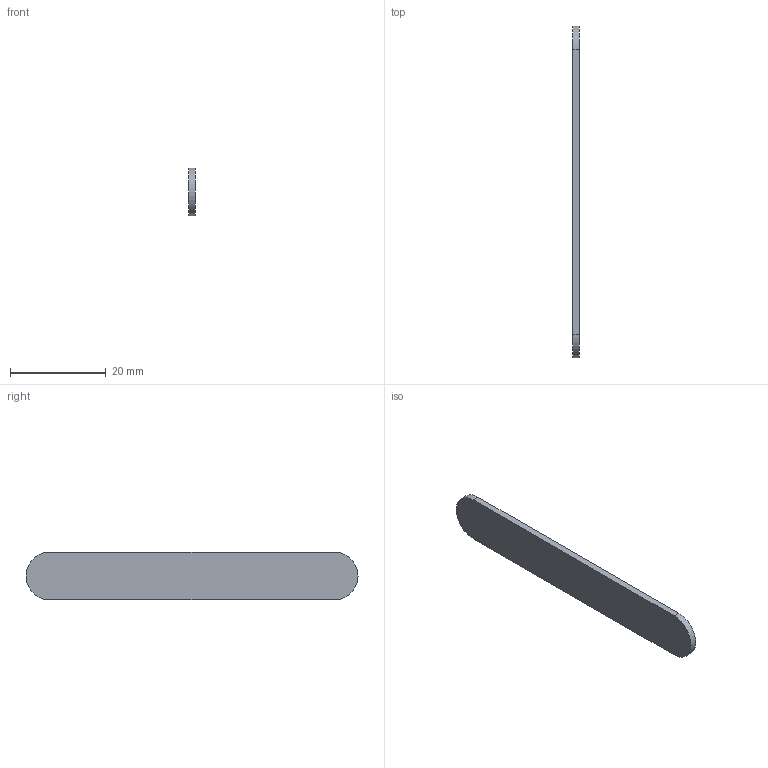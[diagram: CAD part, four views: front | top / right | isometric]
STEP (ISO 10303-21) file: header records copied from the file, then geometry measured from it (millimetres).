
FILE_DESCRIPTION(('Open CASCADE Model'),'2;1');
FILE_NAME('Open CASCADE Shape Model','2026-09-08T13:32:07',('Author'),( 'Open CASCADE'),'Open CASCADE STEP processor 7.7','Open CASCADE 7.7' ,'Unknown');
FILE_SCHEMA(('AUTOMOTIVE_DESIGN { 1 0 10303 214 1 1 1 1 }'));
Length unit declared in the file: millimetre
Products named in the file (1): Open CASCADE STEP translator 7.7 24
Bounding box: 1.4 x 69.4 x 10 mm (x, y, z)
Volume: 941.6 mm3; surface area: 1555.4 mm2
Topology: 1 solids, 1 shells, 6 faces, 12 edges, 8 vertices
Faces by surface type: plane 4, cylinder 2
Entity records: 326 total; most frequent: DIRECTION 54, CARTESIAN_POINT 51, LINE 28, VECTOR 28, ORIENTED_EDGE 24, PCURVE 24, DEFINITIONAL_REPRESENTATION 24, EDGE_CURVE 12
